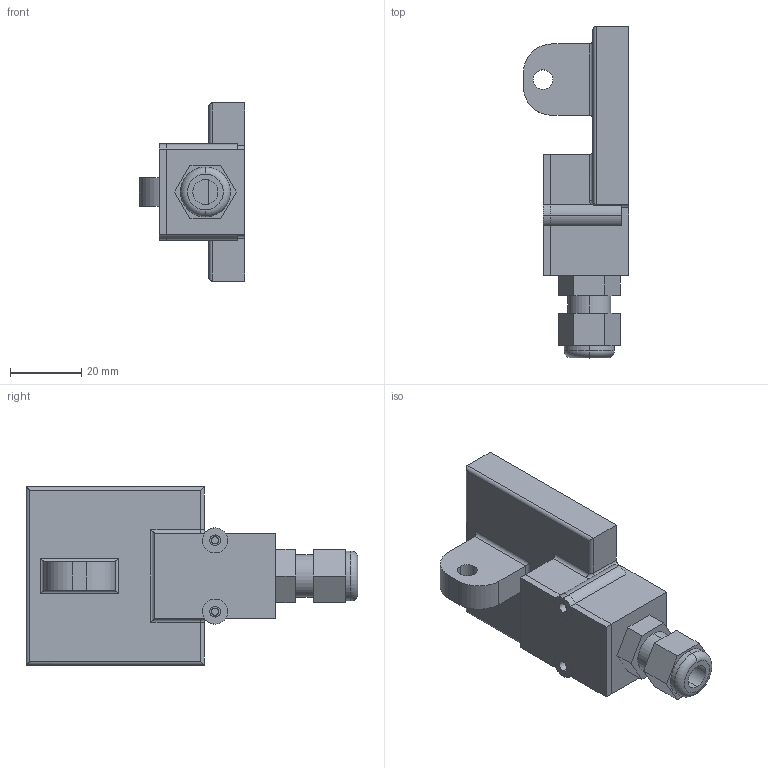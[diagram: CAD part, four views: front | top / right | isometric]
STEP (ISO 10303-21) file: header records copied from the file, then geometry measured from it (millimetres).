
FILE_DESCRIPTION(/* description */ ('VariCAD 2014-2.05 AP-214'),/* implementation_level */ '2;1');
FILE_NAME(/* name */ 'SolarzelleMitalles.stp',/* time_stamp */ '2023-01-01T20:59:09+01:00',/* author */ (''),/* organization */ (''),/* preprocessor_version */ 'ST-DEVELOPER v14',/* originating_system */ 'VariCAD 2014-2.05; kernel version (20130303)',/* authorisation */ '');
FILE_SCHEMA (('AUTOMOTIVE_DESIGN'));
Length unit declared in the file: millimetre
Products named in the file (6): SolarzelleMitalles
Assembly tree (5 placements, depth 2):
  SolarzelleMitalles
    (unnamed)
    (unnamed)
    (unnamed)
    (unnamed)
    (unnamed)
Bounding box: 29.5 x 93.06 x 50 mm (x, y, z)
Volume: 28788.5 mm3; surface area: 19591.6 mm2
Topology: 5 solids, 5 shells, 180 faces, 423 edges, 263 vertices
Faces by surface type: plane 116, cylinder 60, torus 4
Entity records: 5656 total; most frequent: CARTESIAN_POINT 1040, DIRECTION 913, ORIENTED_EDGE 846, EDGE_CURVE 423, AXIS2_PLACEMENT_3D 312, LINE 289, VECTOR 289, VERTEX_POINT 263
